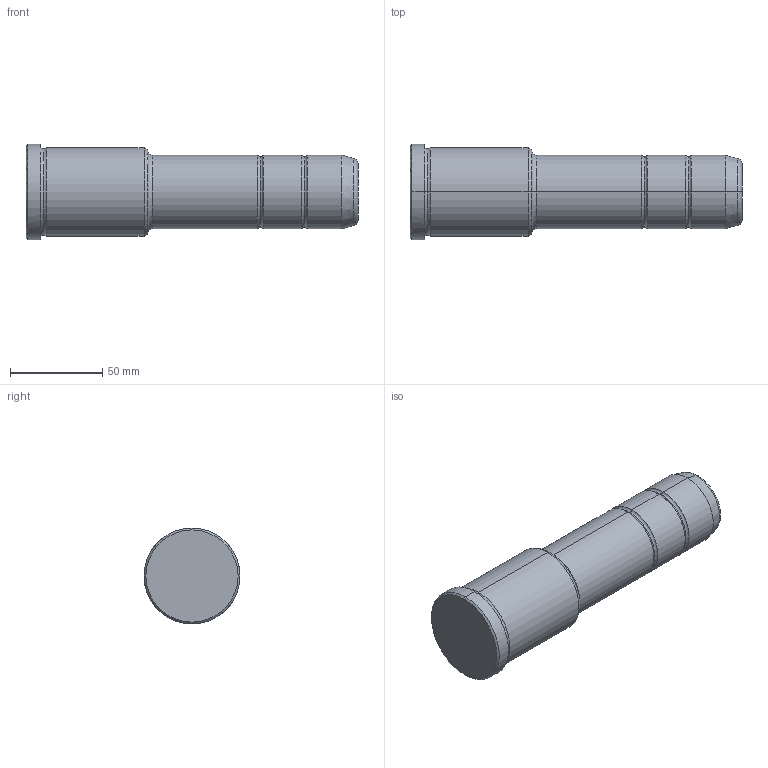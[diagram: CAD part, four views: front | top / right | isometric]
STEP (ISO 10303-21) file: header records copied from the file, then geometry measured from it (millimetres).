
FILE_DESCRIPTION(('CATIA V5 STEP Exchange'),'2;1');
FILE_NAME('C:\Users\Utente\Desktop\IO LAVORO\3D X SITO CF\X SITO\PLASTICA\351\351-40X66X180.stp','2021-10-28T18:26:42+00:00',('none'),('none'),'CATIA Version 5 Release 20 GA (IN-10)','CATIA V5 STEP AP203','none');
FILE_SCHEMA(('CONFIG_CONTROL_DESIGN'));
Length unit declared in the file: millimetre
Products named in the file (1): 351-40X66X180
Bounding box: 180 x 52 x 52 mm (x, y, z)
Volume: 263016.8 mm3; surface area: 28074.1 mm2
Topology: 1 solids, 1 shells, 36 faces, 102 edges, 70 vertices
Faces by surface type: torus 16, cylinder 10, cone 6, plane 4
Entity records: 1292 total; most frequent: CARTESIAN_POINT 321, ORIENTED_EDGE 204, DIRECTION 166, AXIS2_PLACEMENT_3D 115, EDGE_CURVE 102, CIRCLE 78, VERTEX_POINT 70, EDGE_LOOP 38
